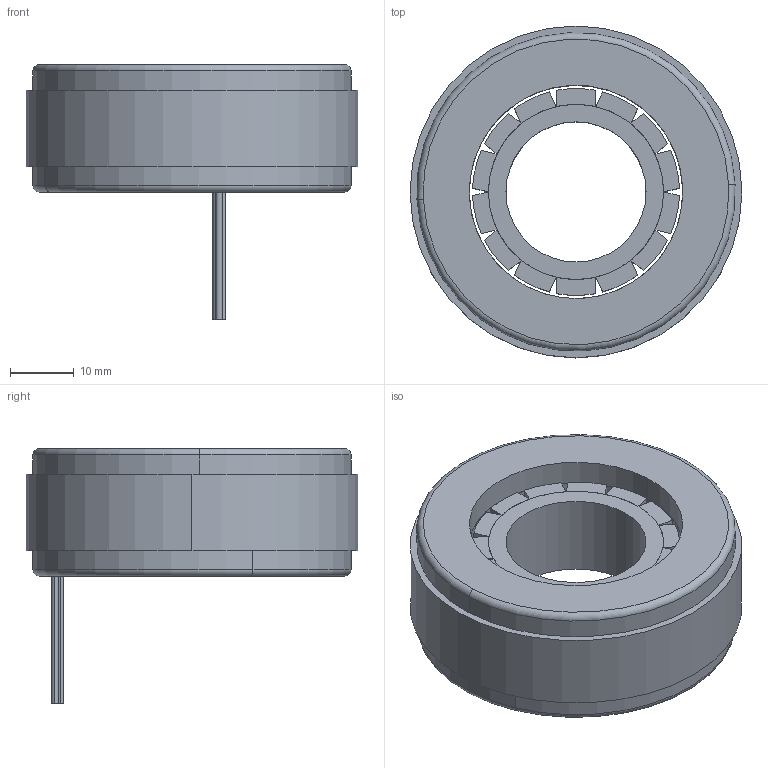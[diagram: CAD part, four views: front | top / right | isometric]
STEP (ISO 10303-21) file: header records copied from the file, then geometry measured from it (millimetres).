
FILE_DESCRIPTION (( 'STEP AP203' ), '1' );
FILE_NAME ('52LW01軞蚾饜.STEP', '2024-02-29T07:47:01', ( 'China' ), ( 'Microsoft' ), 'SwSTEP 2.0', 'SolidWorks 2017', '' );
FILE_SCHEMA (( 'CONFIG_CONTROL_DESIGN' ));
Length unit declared in the file: millimetre
Products named in the file (8): 隅赽; 棠詩; 蛌赽; 竘堤盄; 绕组端部; 52LW01軞蚾饜; 諾陑粣; 隅赽沺陑
Assembly tree (21 placements, depth 3):
  52LW01軞蚾饜
    隅赽
      隅赽沺陑
      绕组端部  x2
      竘堤盄
    蛌赽
      諾陑粣
      棠詩  x14
Bounding box: 52.1 x 52.1 x 40 mm (x, y, z)
Volume: 29217.6 mm3; surface area: 18257.6 mm2
Topology: 21 solids, 21 shells, 124 faces, 242 edges, 160 vertices
Faces by surface type: plane 70, cylinder 50, torus 4
Entity records: 2276 total; most frequent: DIRECTION 242, CARTESIAN_POINT 180, ORIENTED_EDGE 140, AXIS2_PLACEMENT_3D 108, PERSON_AND_ORGANIZATION 85, LOCAL_TIME 82, DATE_AND_TIME 82, CALENDAR_DATE 82
